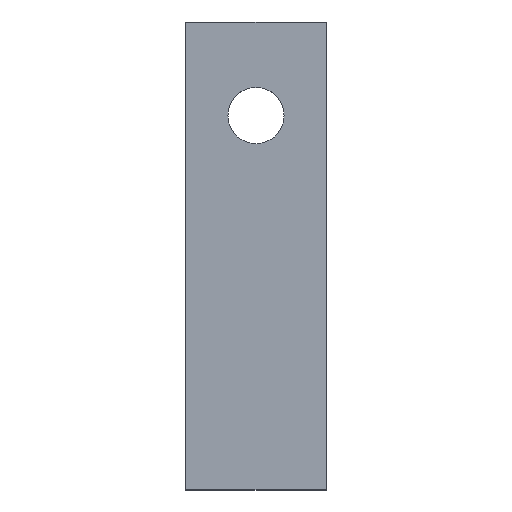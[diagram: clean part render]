
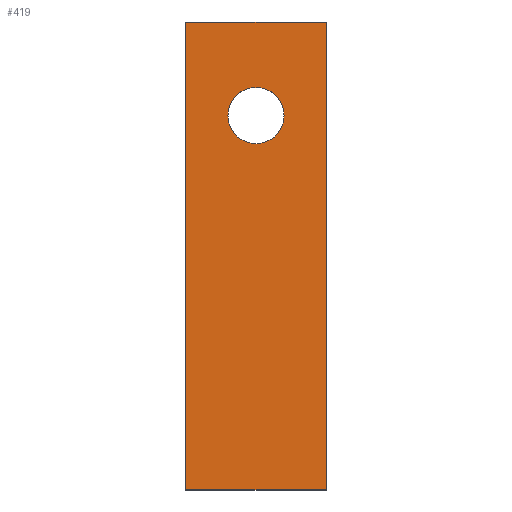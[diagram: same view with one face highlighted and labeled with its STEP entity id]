
A CAD part, top view. The second image highlights one B-rep face of the part: STEP entity #419.
In plain terms, the highlighted planar face has unit normal (0, 0, 1).
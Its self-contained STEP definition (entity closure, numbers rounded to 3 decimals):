
#24 = VERTEX_POINT('',#25);
#25 = CARTESIAN_POINT('',(-15.,-50.,6.));
#32 = PLANE('',#33);
#33 = AXIS2_PLACEMENT_3D('',#34,#35,#36);
#34 = CARTESIAN_POINT('',(-15.,-50.,0.));
#35 = DIRECTION('',(0.,1.,0.));
#36 = DIRECTION('',(1.,0.,0.));
#44 = PLANE('',#45);
#45 = AXIS2_PLACEMENT_3D('',#46,#47,#48);
#46 = CARTESIAN_POINT('',(-15.,50.,0.));
#47 = DIRECTION('',(1.,0.,-0.));
#48 = DIRECTION('',(0.,-1.,0.));
#56 = EDGE_CURVE('',#24,#57,#59,.T.);
#57 = VERTEX_POINT('',#58);
#58 = CARTESIAN_POINT('',(15.,-50.,6.));
#59 = SURFACE_CURVE('',#60,(#64,#71),.PCURVE_S1.);
#60 = LINE('',#61,#62);
#61 = CARTESIAN_POINT('',(-15.,-50.,6.));
#62 = VECTOR('',#63,1.);
#63 = DIRECTION('',(1.,0.,0.));
#64 = PCURVE('',#32,#65);
#65 = DEFINITIONAL_REPRESENTATION('',(#66),#70);
#66 = LINE('',#67,#68);
#67 = CARTESIAN_POINT('',(0.,-6.));
#68 = VECTOR('',#69,1.);
#69 = DIRECTION('',(1.,0.));
#70 = ( GEOMETRIC_REPRESENTATION_CONTEXT(2) 
PARAMETRIC_REPRESENTATION_CONTEXT() REPRESENTATION_CONTEXT('2D SPACE',''
  ) );
#71 = PCURVE('',#72,#77);
#72 = PLANE('',#73);
#73 = AXIS2_PLACEMENT_3D('',#74,#75,#76);
#74 = CARTESIAN_POINT('',(0.,0.,6.));
#75 = DIRECTION('',(0.,0.,1.));
#76 = DIRECTION('',(1.,0.,-0.));
#77 = DEFINITIONAL_REPRESENTATION('',(#78),#82);
#78 = LINE('',#79,#80);
#79 = CARTESIAN_POINT('',(-15.,-50.));
#80 = VECTOR('',#81,1.);
#81 = DIRECTION('',(1.,0.));
#82 = ( GEOMETRIC_REPRESENTATION_CONTEXT(2) 
PARAMETRIC_REPRESENTATION_CONTEXT() REPRESENTATION_CONTEXT('2D SPACE',''
  ) );
#100 = PLANE('',#101);
#101 = AXIS2_PLACEMENT_3D('',#102,#103,#104);
#102 = CARTESIAN_POINT('',(15.,-50.,0.));
#103 = DIRECTION('',(-1.,0.,0.));
#104 = DIRECTION('',(0.,1.,0.));
#142 = EDGE_CURVE('',#57,#143,#145,.T.);
#143 = VERTEX_POINT('',#144);
#144 = CARTESIAN_POINT('',(15.,50.,6.));
#145 = SURFACE_CURVE('',#146,(#150,#157),.PCURVE_S1.);
#146 = LINE('',#147,#148);
#147 = CARTESIAN_POINT('',(15.,-50.,6.));
#148 = VECTOR('',#149,1.);
#149 = DIRECTION('',(0.,1.,0.));
#150 = PCURVE('',#100,#151);
#151 = DEFINITIONAL_REPRESENTATION('',(#152),#156);
#152 = LINE('',#153,#154);
#153 = CARTESIAN_POINT('',(0.,-6.));
#154 = VECTOR('',#155,1.);
#155 = DIRECTION('',(1.,0.));
#156 = ( GEOMETRIC_REPRESENTATION_CONTEXT(2) 
PARAMETRIC_REPRESENTATION_CONTEXT() REPRESENTATION_CONTEXT('2D SPACE',''
  ) );
#157 = PCURVE('',#72,#158);
#158 = DEFINITIONAL_REPRESENTATION('',(#159),#163);
#159 = LINE('',#160,#161);
#160 = CARTESIAN_POINT('',(15.,-50.));
#161 = VECTOR('',#162,1.);
#162 = DIRECTION('',(0.,1.));
#163 = ( GEOMETRIC_REPRESENTATION_CONTEXT(2) 
PARAMETRIC_REPRESENTATION_CONTEXT() REPRESENTATION_CONTEXT('2D SPACE',''
  ) );
#181 = PLANE('',#182);
#182 = AXIS2_PLACEMENT_3D('',#183,#184,#185);
#183 = CARTESIAN_POINT('',(15.,50.,0.));
#184 = DIRECTION('',(0.,-1.,0.));
#185 = DIRECTION('',(-1.,0.,0.));
#218 = EDGE_CURVE('',#143,#219,#221,.T.);
#219 = VERTEX_POINT('',#220);
#220 = CARTESIAN_POINT('',(-15.,50.,6.));
#221 = SURFACE_CURVE('',#222,(#226,#233),.PCURVE_S1.);
#222 = LINE('',#223,#224);
#223 = CARTESIAN_POINT('',(15.,50.,6.));
#224 = VECTOR('',#225,1.);
#225 = DIRECTION('',(-1.,0.,0.));
#226 = PCURVE('',#181,#227);
#227 = DEFINITIONAL_REPRESENTATION('',(#228),#232);
#228 = LINE('',#229,#230);
#229 = CARTESIAN_POINT('',(0.,-6.));
#230 = VECTOR('',#231,1.);
#231 = DIRECTION('',(1.,0.));
#232 = ( GEOMETRIC_REPRESENTATION_CONTEXT(2) 
PARAMETRIC_REPRESENTATION_CONTEXT() REPRESENTATION_CONTEXT('2D SPACE',''
  ) );
#233 = PCURVE('',#72,#234);
#234 = DEFINITIONAL_REPRESENTATION('',(#235),#239);
#235 = LINE('',#236,#237);
#236 = CARTESIAN_POINT('',(15.,50.));
#237 = VECTOR('',#238,1.);
#238 = DIRECTION('',(-1.,0.));
#239 = ( GEOMETRIC_REPRESENTATION_CONTEXT(2) 
PARAMETRIC_REPRESENTATION_CONTEXT() REPRESENTATION_CONTEXT('2D SPACE',''
  ) );
#289 = EDGE_CURVE('',#219,#24,#290,.T.);
#290 = SURFACE_CURVE('',#291,(#295,#302),.PCURVE_S1.);
#291 = LINE('',#292,#293);
#292 = CARTESIAN_POINT('',(-15.,50.,6.));
#293 = VECTOR('',#294,1.);
#294 = DIRECTION('',(0.,-1.,0.));
#295 = PCURVE('',#44,#296);
#296 = DEFINITIONAL_REPRESENTATION('',(#297),#301);
#297 = LINE('',#298,#299);
#298 = CARTESIAN_POINT('',(0.,-6.));
#299 = VECTOR('',#300,1.);
#300 = DIRECTION('',(1.,0.));
#301 = ( GEOMETRIC_REPRESENTATION_CONTEXT(2) 
PARAMETRIC_REPRESENTATION_CONTEXT() REPRESENTATION_CONTEXT('2D SPACE',''
  ) );
#302 = PCURVE('',#72,#303);
#303 = DEFINITIONAL_REPRESENTATION('',(#304),#308);
#304 = LINE('',#305,#306);
#305 = CARTESIAN_POINT('',(-15.,50.));
#306 = VECTOR('',#307,1.);
#307 = DIRECTION('',(0.,-1.));
#308 = ( GEOMETRIC_REPRESENTATION_CONTEXT(2) 
PARAMETRIC_REPRESENTATION_CONTEXT() REPRESENTATION_CONTEXT('2D SPACE',''
  ) );
#338 = VERTEX_POINT('',#339);
#339 = CARTESIAN_POINT('',(6.,30.,6.));
#346 = CYLINDRICAL_SURFACE('',#347,6.);
#347 = AXIS2_PLACEMENT_3D('',#348,#349,#350);
#348 = CARTESIAN_POINT('',(0.,30.,0.));
#349 = DIRECTION('',(-0.,-0.,-1.));
#350 = DIRECTION('',(1.,0.,-0.));
#365 = EDGE_CURVE('',#338,#338,#366,.T.);
#366 = SURFACE_CURVE('',#367,(#372,#379),.PCURVE_S1.);
#367 = CIRCLE('',#368,6.);
#368 = AXIS2_PLACEMENT_3D('',#369,#370,#371);
#369 = CARTESIAN_POINT('',(0.,30.,6.));
#370 = DIRECTION('',(0.,0.,1.));
#371 = DIRECTION('',(1.,0.,-0.));
#372 = PCURVE('',#346,#373);
#373 = DEFINITIONAL_REPRESENTATION('',(#374),#378);
#374 = LINE('',#375,#376);
#375 = CARTESIAN_POINT('',(-0.,-6.));
#376 = VECTOR('',#377,1.);
#377 = DIRECTION('',(-1.,0.));
#378 = ( GEOMETRIC_REPRESENTATION_CONTEXT(2) 
PARAMETRIC_REPRESENTATION_CONTEXT() REPRESENTATION_CONTEXT('2D SPACE',''
  ) );
#379 = PCURVE('',#72,#380);
#380 = DEFINITIONAL_REPRESENTATION('',(#381),#385);
#381 = CIRCLE('',#382,6.);
#382 = AXIS2_PLACEMENT_2D('',#383,#384);
#383 = CARTESIAN_POINT('',(0.,30.));
#384 = DIRECTION('',(1.,0.));
#385 = ( GEOMETRIC_REPRESENTATION_CONTEXT(2) 
PARAMETRIC_REPRESENTATION_CONTEXT() REPRESENTATION_CONTEXT('2D SPACE',''
  ) );
#419 = ADVANCED_FACE('',(#420,#426),#72,.T.);
#420 = FACE_BOUND('',#421,.T.);
#421 = EDGE_LOOP('',(#422,#423,#424,#425));
#422 = ORIENTED_EDGE('',*,*,#56,.T.);
#423 = ORIENTED_EDGE('',*,*,#142,.T.);
#424 = ORIENTED_EDGE('',*,*,#218,.T.);
#425 = ORIENTED_EDGE('',*,*,#289,.T.);
#426 = FACE_BOUND('',#427,.F.);
#427 = EDGE_LOOP('',(#428));
#428 = ORIENTED_EDGE('',*,*,#365,.T.);
